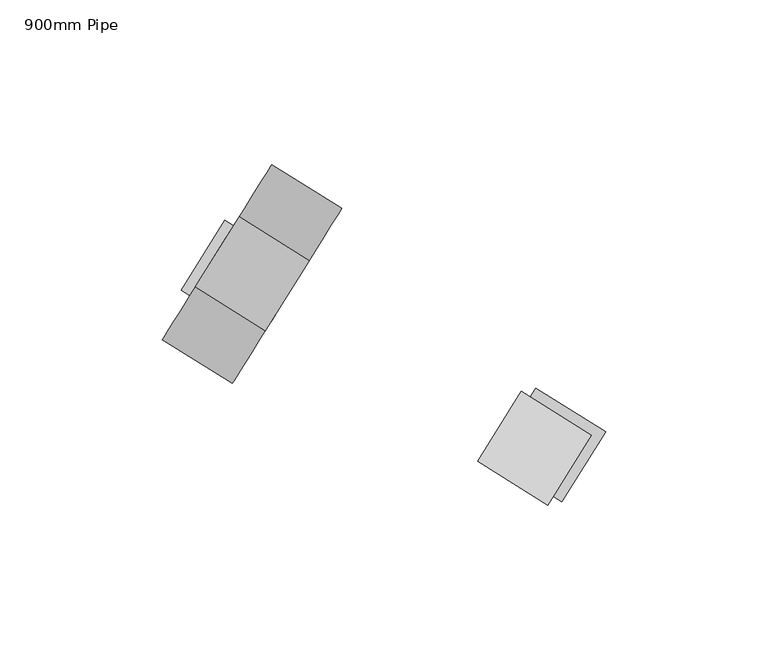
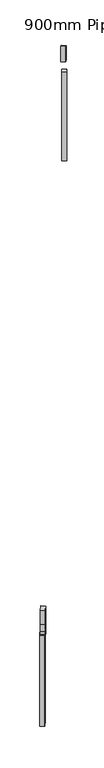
"""IFC4 building model written with IfcOpenShell, lengths in millimetres: railing geometry, 900mm Pipe."""

import ifcopenshell
import ifcopenshell.guid

model = None  # the IFC model being written
_history = None  # IfcOwnerHistory: only IFC2X3 demands one
_inside = {}  # id of a spatial element -> (the spatial element, [elements in it])
_under = {}  # id of a project, library or spatial element -> (it, [spatial elements below it])
_declared = {}  # id of a project -> (the project, [libraries it declares])
_typed = {}  # id of a type object -> (the type object, [elements of that type])
_made_of = {}  # id of a material, layer set ... -> (it, [elements and type objects made of it])


def new_model(schema):
    """Start an empty IFC model of exactly this schema.

    Asked for "IFC4X3", IfcOpenShell would pick the latest addendum, in which some entities
    have other attributes; the version numbers below select the first issue.
    IFC2X3 requires an IfcOwnerHistory on every rooted entity: one is made here for all.
    """
    global model, _history
    if schema == "IFC4X3":
        model = ifcopenshell.file(schema_version=(4, 3, 0, 0))
    else:
        model = ifcopenshell.file(schema=schema)
    _inside.clear()
    _under.clear()
    _declared.clear()
    _typed.clear()
    _made_of.clear()
    _history = None
    if model.schema == "IFC2X3":
        org = make("IfcOrganization", Name="unknown")
        user = make(
            "IfcPersonAndOrganization",
            ThePerson=make("IfcPerson", FamilyName="unknown"),
            TheOrganization=org,
        )
        app = make(
            "IfcApplication",
            ApplicationDeveloper=org,
            Version="unknown",
            ApplicationFullName="unknown",
            ApplicationIdentifier="unknown",
        )
        _history = make(
            "IfcOwnerHistory",
            OwningUser=user,
            OwningApplication=app,
            ChangeAction="ADDED",
            CreationDate=0,
        )
    return model


def make(cls, **values):
    """One entity of the class cls with the attributes given. An attribute that is None is left unset."""
    return model.create_entity(
        cls, **{name: value for name, value in values.items() if value is not None}
    )


def rooted(cls, **values):
    """An entity with a GlobalId (a new one), such as an element, a storey or a relation."""
    return make(cls, GlobalId=ifcopenshell.guid.new(), OwnerHistory=_history, **values)


def si_unit(unit_type, name, prefix=None):
    """IfcSIUnit, for example si_unit("LENGTHUNIT", "METRE", prefix="MILLI")."""
    return make("IfcSIUnit", UnitType=unit_type, Prefix=prefix, Name=name)


def assignment(units):
    """IfcUnitAssignment: the units of a project."""
    return None if units is None else make("IfcUnitAssignment", Units=units)


def point(xyz):
    """IfcCartesianPoint."""
    return None if xyz is None else make("IfcCartesianPoint", Coordinates=xyz)


def direction(xyz):
    """IfcDirection."""
    return None if xyz is None else make("IfcDirection", DirectionRatios=xyz)


def frame(location, z_axis=None, x_axis=None):
    """IfcAxis2Placement3D, a coordinate frame: its origin and axes. An axis left out is left unset."""
    return make(
        "IfcAxis2Placement3D",
        Location=point(location),
        Axis=direction(z_axis),
        RefDirection=direction(x_axis),
    )


def frame_2d(location, x_axis=None):
    """IfcAxis2Placement2D, a coordinate frame in the plane: its origin and x axis."""
    return make(
        "IfcAxis2Placement2D", Location=point(location), RefDirection=direction(x_axis)
    )


def origin():
    """The frame at (0, 0, 0) with its axes left unset."""
    return frame((0.0, 0.0, 0.0))


def place(relative_to, where):
    """IfcLocalPlacement: puts the frame where relative to a parent placement (None: the world)."""
    return make(
        "IfcLocalPlacement", PlacementRelTo=relative_to, RelativePlacement=where
    )


def context(
    kind, dimensions, precision=None, world=None, true_north=None, identifier=None
):
    """IfcGeometricRepresentationContext, for example the 3D "Model" context."""
    return make(
        "IfcGeometricRepresentationContext",
        ContextIdentifier=identifier,
        ContextType=kind,
        CoordinateSpaceDimension=dimensions,
        Precision=precision,
        WorldCoordinateSystem=world,
        TrueNorth=true_north,
    )


def project(units=None, contexts=None):
    """IfcProject with its units and contexts."""
    return rooted(
        "IfcProject",
        Name="project",
        RepresentationContexts=contexts,
        UnitsInContext=assignment(units),
    )


def spatial(cls, under=None, at=None, **own):
    """A site, building, storey or space (cls), placed at a placement, below another one or the project."""
    s = rooted(cls, ObjectPlacement=at, **own)
    if under is not None:
        _under.setdefault(under.id(), (under, []))[1].append(s)
    return s


def polyline(points):
    """IfcPolyline through the points."""
    return make("IfcPolyline", Points=[point(p) for p in points])


def circle_curve(where, radius):
    """IfcCircle in the frame where."""
    return make("IfcCircle", Position=where, Radius=radius)


def trimmed(basis, trim1, trim2, sense, master):
    """IfcTrimmedCurve: the piece of a basis curve between two trims."""
    return make(
        "IfcTrimmedCurve",
        BasisCurve=basis,
        Trim1=trim1,
        Trim2=trim2,
        SenseAgreement=sense,
        MasterRepresentation=master,
    )


def segment(curve, same_sense, transition):
    """IfcCompositeCurveSegment."""
    return make(
        "IfcCompositeCurveSegment",
        Transition=transition,
        SameSense=same_sense,
        ParentCurve=curve,
    )


def composite_curve(segments, self_intersect=None):
    """IfcCompositeCurve: segments joined end to end."""
    return make("IfcCompositeCurve", Segments=segments, SelfIntersect=self_intersect)


def outline(outer, holes=None, kind="AREA"):
    """IfcArbitraryClosedProfileDef: a profile drawn as a closed curve; with holes, ...WithVoids."""
    if holes is None:
        return make("IfcArbitraryClosedProfileDef", ProfileType=kind, OuterCurve=outer)
    return make(
        "IfcArbitraryProfileDefWithVoids",
        ProfileType=kind,
        OuterCurve=outer,
        InnerCurves=holes,
    )


def extrude(swept, where, along, depth):
    """IfcExtrudedAreaSolid: the profile swept, set in the frame where, extruded along a direction by depth."""
    return make(
        "IfcExtrudedAreaSolid",
        SweptArea=swept,
        Position=where,
        ExtrudedDirection=direction(along),
        Depth=depth,
    )


def shape(context_of_items, identifier, shape_type, items):
    """IfcShapeRepresentation: the items that make up one representation, for example the "Body"."""
    return make(
        "IfcShapeRepresentation",
        ContextOfItems=context_of_items,
        RepresentationIdentifier=identifier,
        RepresentationType=shape_type,
        Items=items,
    )


def source(mapping_origin, context_of_items, identifier, shape_type, items):
    """IfcRepresentationMap: a shape defined once, which mapped items show again and again."""
    return make(
        "IfcRepresentationMap",
        MappingOrigin=mapping_origin,
        MappedRepresentation=shape(context_of_items, identifier, shape_type, items),
    )


def transform(
    local_origin,
    x_axis=None,
    y_axis=None,
    z_axis=None,
    scale=None,
    scale2=None,
    scale3=None,
    uniform=True,
):
    """IfcCartesianTransformationOperator3D, or its non-uniform kind. x_axis, y_axis, z_axis: its Axis1, 2, 3."""
    if uniform:
        return make(
            "IfcCartesianTransformationOperator3D",
            Axis1=direction(x_axis),
            Axis2=direction(y_axis),
            LocalOrigin=point(local_origin),
            Scale=scale,
            Axis3=direction(z_axis),
        )
    return make(
        "IfcCartesianTransformationOperator3DnonUniform",
        Axis1=direction(x_axis),
        Axis2=direction(y_axis),
        LocalOrigin=point(local_origin),
        Scale=scale,
        Axis3=direction(z_axis),
        Scale2=scale2,
        Scale3=scale3,
    )


def mapped(mapping_source, mapping_target):
    """IfcMappedItem: shows the shape of a source again, moved by a transform."""
    return make(
        "IfcMappedItem", MappingSource=mapping_source, MappingTarget=mapping_target
    )


def made_of(thing, what):
    """Note that an element or type object is made of a material, layer set ...; save() writes the relation."""
    if what is not None:
        _made_of.setdefault(what.id(), (what, []))[1].append(thing)
    return thing


def element(
    cls,
    number,
    at=None,
    inside=None,
    cuts=None,
    type_object=None,
    material=None,
    context=None,
    identifier="Body",
    shape_type=None,
    held_by="IfcProductDefinitionShape",
    body=None,
    shapes=None,
    **own,
):
    """One element of the class cls, such as IfcWall. Its Tag is "e" and its number.

    at: its placement. inside: the storey or other place that contains it. cuts: it is an
    opening in that element (IfcRelVoidsElement). A single representation is given by context,
    identifier, shape_type and body (its items); several are given by shapes. held_by: the class
    of the entity that holds the representations. save() writes the other relations.
    """
    e = rooted(cls, Tag="e%d" % number, ObjectPlacement=at, **own)
    if body is not None:
        shapes = [shape(context, identifier, shape_type, body)]
    if shapes is not None:
        e.Representation = make(held_by, Representations=shapes)
    if inside is not None:
        _inside.setdefault(inside.id(), (inside, []))[1].append(e)
    if cuts is not None:
        rooted(
            "IfcRelVoidsElement", RelatingBuildingElement=cuts, RelatedOpeningElement=e
        )
    if type_object is not None:
        _typed.setdefault(type_object.id(), (type_object, []))[1].append(e)
    return made_of(e, material)


def aggregate(whole, parts):
    """IfcRelAggregates: a whole, such as a stair, and the parts it consists of."""
    return rooted("IfcRelAggregates", RelatingObject=whole, RelatedObjects=parts)


def save(model, path):
    """Write the relations noted so far, then the file.

    IfcRelAggregates (storeys below a building ...), IfcRelContainedInSpatialStructure (elements
    in a storey), IfcRelDefinesByType, IfcRelAssociatesMaterial and IfcRelDeclares: one each for
    every whole, place, type object, material and project.
    """
    for whole, parts in _under.values():
        aggregate(whole, parts)
    for where, things in _inside.values():
        rooted(
            "IfcRelContainedInSpatialStructure",
            RelatedElements=things,
            RelatingStructure=where,
        )
    for kind, things in _typed.values():
        rooted("IfcRelDefinesByType", RelatedObjects=things, RelatingType=kind)
    for what, things in _made_of.values():
        rooted("IfcRelAssociatesMaterial", RelatedObjects=things, RelatingMaterial=what)
    for by, libraries in _declared.values():
        rooted("IfcRelDeclares", RelatingContext=by, RelatedDefinitions=libraries)
    model.write(path)


def railing_900mm_pipe_8cd6b57c(model_context):
    return source(origin(), model_context, "Body", "SweptSolid", [
        extrude(outline(polyline([(0.0, -25.4), (0.0, 0.0), (542.8375, 0.0), (555.5375, -25.4), (0.0, -25.4)])), frame((45963.8417257, -53362.366106, 4841.35), z_axis=(-0.8480480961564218, 0.5299192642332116, 0.0), x_axis=(0.0, 0.0, -1.0)), (0.0, 0.0, 1.0), 25.4),
        extrude(outline(polyline([(317.5, 0.0), (317.5, -25.4), (234.95, -25.4), (222.25, 0.0), (317.5, 0.0)])), frame((45959.4666793, -53363.3761651, 5222.35), z_axis=(-0.8480480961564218, 0.5299192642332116, 0.0), x_axis=(0.0, 0.0, -1.0)), (0.0, 0.0, 1.0), 25.4),
        extrude(outline(composite_curve([segment(trimmed(circle_curve(frame_2d((0.0, -31.75)), 31.75), [point((0.0, -63.5))], [point((0.0, 0.0))], False, "CARTESIAN"), True, "CONTINUOUS"), segment(trimmed(circle_curve(frame_2d((0.0, -31.75)), 31.75), [point((0.0, 0.0))], [point((0.0, -63.5))], False, "CARTESIAN"), True, "CONTINUOUS")], self_intersect=False), holes=[composite_curve([segment(trimmed(circle_curve(frame_2d((0.0, -31.75)), 12.7), [point((0.0, -44.45))], [point((0.0, -19.05))], True, "CARTESIAN"), True, "CONTINUOUS"), segment(trimmed(circle_curve(frame_2d((0.0, -31.75)), 12.7), [point((0.0, -19.05))], [point((0.0, -44.45))], True, "CARTESIAN"), True, "CONTINUOUS")], self_intersect=False)]), frame((45862.5155666, -53325.2577347, 1435.6), z_axis=(-0.8480480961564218, 0.5299192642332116, 0.0), x_axis=(0.0, 0.0, -1.0)), (0.0, 0.0, 1.0), 25.4),
        extrude(outline(polyline([(0.0, -25.4), (0.0, 0.0), (555.5375, 0.0), (542.8375, -25.4), (0.0, -25.4)])), frame((45868.2354822, -53310.1124775, 1403.85), z_axis=(-0.8480480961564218, 0.5299192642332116, 0.0), x_axis=(0.0, 0.0, -1.0)), (0.0, 0.0, 1.0), 25.4),
        extrude(outline(polyline([(317.5, 0.0), (317.5, -25.4), (222.25, -25.4), (234.95, 0.0), (317.5, 0.0)])), frame((45872.6105286, -53309.1024185, 1784.85), z_axis=(-0.8480480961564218, 0.5299192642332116, 0.0), x_axis=(0.0, 0.0, -1.0)), (0.0, 0.0, 1.0), 25.4),
    ])


if __name__ == "__main__":
    model = new_model("IFC4")
    model_context = context("Model", 3, world=origin())
    ifc_project = project(units=[si_unit("LENGTHUNIT", "METRE", prefix="MILLI")], contexts=[model_context])
    site = spatial("IfcSite", under=ifc_project)
    building = spatial("IfcBuilding", under=site)
    placement = place(None, origin())
    railing_900mm_pipe_shape = railing_900mm_pipe_8cd6b57c(model_context)
    element("IfcRailing", 1, ObjectType="900mm Pipe", at=placement, inside=building, context=model_context, shape_type="MappedRepresentation", body=[
        mapped(railing_900mm_pipe_shape, transform((0.0, 0.0, 0.0), x_axis=(1.0, 0.0, 0.0), y_axis=(0.0, 1.0, 0.0), z_axis=(0.0, 0.0, 1.0))),
    ])
    save(model, "model.ifc")
